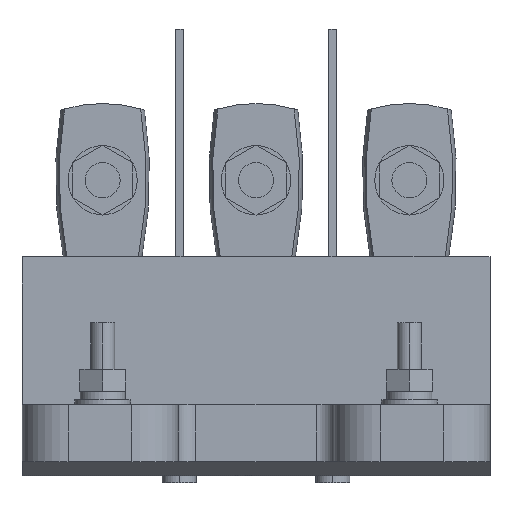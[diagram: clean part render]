
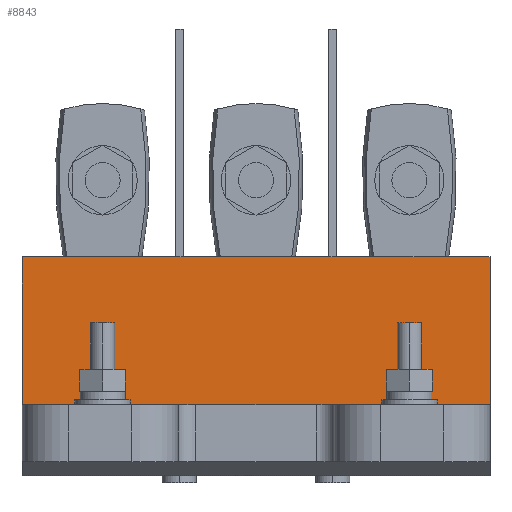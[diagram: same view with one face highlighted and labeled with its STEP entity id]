
A CAD part, front view. The second image highlights one B-rep face of the part: STEP entity #8843.
In plain terms, the highlighted planar face has unit normal (0, -1, 0) as drawn and (0, 0, 1) by its records, which use the part's own axes.
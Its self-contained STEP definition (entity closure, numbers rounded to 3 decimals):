
#166 = FACE_OUTER_BOUND ( 'NONE', #1249, .T. ) ;
#187 = ORIENTED_EDGE ( 'NONE', *, *, #4289, .T. ) ;
#564 = EDGE_CURVE ( 'NONE', #3361, #5557, #7832, .T. ) ;
#1230 = DIRECTION ( 'NONE',  ( 1., 0., 0. ) ) ;
#1235 = VECTOR ( 'NONE', #3802, 1000. ) ;
#1249 = EDGE_LOOP ( 'NONE', ( #5495, #187, #13262, #12188 ) ) ;
#2138 = VECTOR ( 'NONE', #13002, 1000. ) ;
#2189 = CARTESIAN_POINT ( 'NONE',  ( 53.4, 16.3, 44.8 ) ) ;
#2620 = VECTOR ( 'NONE', #2998, 1000. ) ;
#2998 = DIRECTION ( 'NONE',  ( 0., 1., 0. ) ) ;
#3361 = VERTEX_POINT ( 'NONE', #13526 ) ;
#3802 = DIRECTION ( 'NONE',  ( 1., 0., 0. ) ) ;
#4260 = CARTESIAN_POINT ( 'NONE',  ( 53.4, 50., 44.8 ) ) ;
#4289 = EDGE_CURVE ( 'NONE', #7671, #5307, #12010, .T. ) ;
#4732 = DIRECTION ( 'NONE',  ( 0., 0., -1. ) ) ;
#5032 = CARTESIAN_POINT ( 'NONE',  ( -53.4, 16.3, 44.8 ) ) ;
#5307 = VERTEX_POINT ( 'NONE', #2189 ) ;
#5495 = ORIENTED_EDGE ( 'NONE', *, *, #9443, .F. ) ;
#5557 = VERTEX_POINT ( 'NONE', #4260 ) ;
#5623 = CARTESIAN_POINT ( 'NONE',  ( -53.4, -8.2, 44.8 ) ) ;
#6688 = AXIS2_PLACEMENT_3D ( 'NONE', #12576, #4732, #12803 ) ;
#7351 = CARTESIAN_POINT ( 'NONE',  ( 53.4, -8.2, 44.8 ) ) ;
#7671 = VERTEX_POINT ( 'NONE', #5032 ) ;
#7832 = LINE ( 'NONE', #12366, #11487 ) ;
#8044 = PLANE ( 'NONE',  #6688 ) ;
#8578 = CARTESIAN_POINT ( 'NONE',  ( 26., 16.3, 44.8 ) ) ;
#8843 = ADVANCED_FACE ( 'NONE', ( #166 ), #8044, .F. ) ;
#9239 = EDGE_CURVE ( 'NONE', #5557, #5307, #10754, .T. ) ;
#9443 = EDGE_CURVE ( 'NONE', #7671, #3361, #10093, .T. ) ;
#10093 = LINE ( 'NONE', #5623, #2620 ) ;
#10754 = LINE ( 'NONE', #7351, #2138 ) ;
#11487 = VECTOR ( 'NONE', #1230, 1000. ) ;
#12010 = LINE ( 'NONE', #8578, #1235 ) ;
#12188 = ORIENTED_EDGE ( 'NONE', *, *, #564, .F. ) ;
#12366 = CARTESIAN_POINT ( 'NONE',  ( 26., 50., 44.8 ) ) ;
#12576 = CARTESIAN_POINT ( 'NONE',  ( 26., 16.3, 44.8 ) ) ;
#12803 = DIRECTION ( 'NONE',  ( -1., 0., 0. ) ) ;
#13002 = DIRECTION ( 'NONE',  ( 0., -1., 0. ) ) ;
#13262 = ORIENTED_EDGE ( 'NONE', *, *, #9239, .F. ) ;
#13526 = CARTESIAN_POINT ( 'NONE',  ( -53.4, 50., 44.8 ) ) ;
